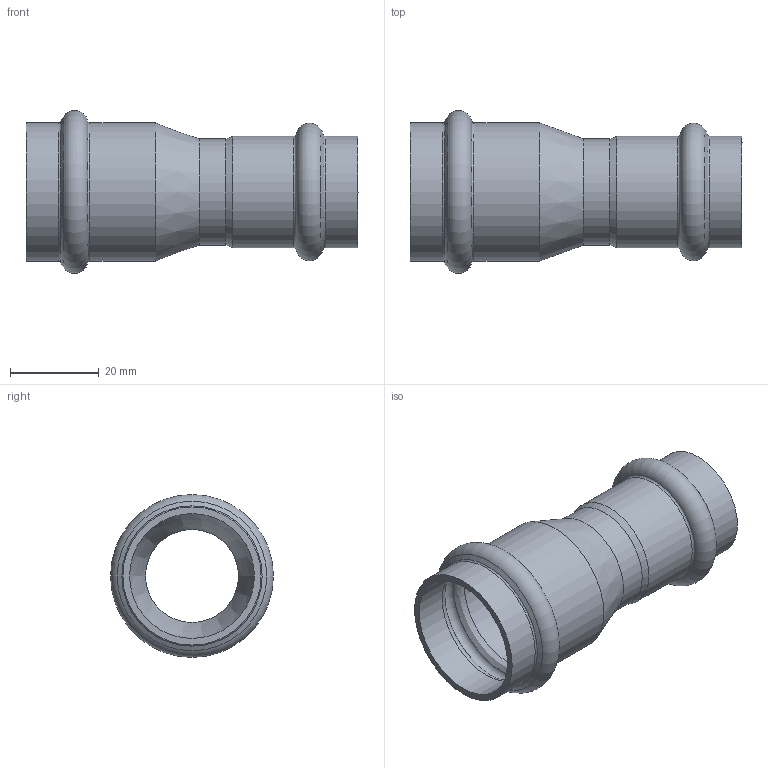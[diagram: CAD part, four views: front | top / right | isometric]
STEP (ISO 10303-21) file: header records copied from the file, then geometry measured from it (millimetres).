
FILE_DESCRIPTION((''),'2;1');
FILE_NAME('G:\Technics\CAD\Bauteile\028\692402822(2).stp','2008-02-27T08:04:03',('herberg'),(''),'Autodesk Inventor 2008','Autodesk Inventor 2008','');
FILE_SCHEMA(('AUTOMOTIVE_DESIGN { 1 0 10303 214 1 1 1 1 }'));
Length unit declared in the file: millimetre
Products named in the file (1): 692402822(2)
Bounding box: 75 x 36.79 x 36.79 mm (x, y, z)
Volume: 10327 mm3; surface area: 14019.5 mm2
Topology: 1 solids, 1 shells, 32 faces, 66 edges, 36 vertices
Faces by surface type: cylinder 10, cone 8, bspline 8, torus 4, plane 2
Full cylindrical faces by diameter (mm): 21 x1, 22.15 x2, 24 x1, 25.15 x2, 28.2 x2, 31.2 x2
Entity records: 994 total; most frequent: CARTESIAN_POINT 449, DIRECTION 114, ORIENTED_EDGE 64, EDGE_LOOP 64, AXIS2_PLACEMENT_3D 57, VERTEX_POINT 32, CIRCLE 32, EDGE_CURVE 32
